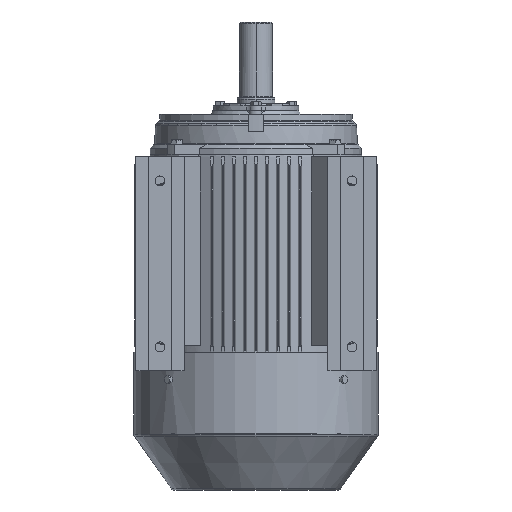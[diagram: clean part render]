
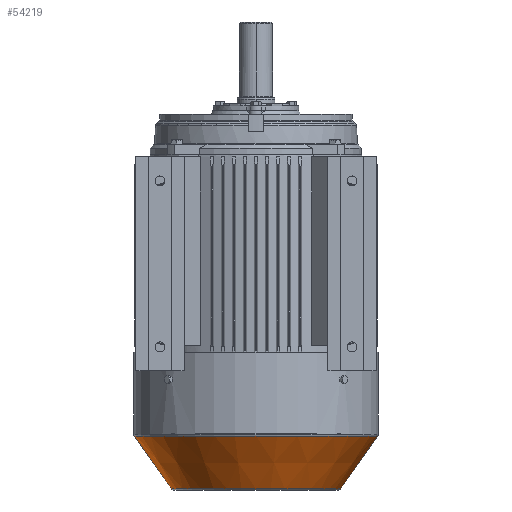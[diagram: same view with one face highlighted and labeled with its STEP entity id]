
A CAD part, front view. The second image highlights one B-rep face of the part: STEP entity #54219.
In plain terms, the highlighted conical face has half-angle 35 degrees and reference radius 176.596 mm.
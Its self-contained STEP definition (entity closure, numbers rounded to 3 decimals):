
#715 = CARTESIAN_POINT ( 'NONE',  ( -75.212, 0., 0. ) ) ;
#716 = DIRECTION ( 'NONE',  ( 1., 0., 0. ) ) ;
#717 = DIRECTION ( 'NONE',  ( 0., 0., -1. ) ) ;
#718 = CARTESIAN_POINT ( 'NONE',  ( 1.5, 0., 0. ) ) ;
#719 = DIRECTION ( 'NONE',  ( 1., 0., 0. ) ) ;
#720 = DIRECTION ( 'NONE',  ( 0., 0., -1. ) ) ;
#11695 = ORIENTED_EDGE ( 'NONE', *, *, #41160, .F. ) ;
#11696 = ORIENTED_EDGE ( 'NONE', *, *, #40366, .F. ) ;
#11697 = ORIENTED_EDGE ( 'NONE', *, *, #41159, .T. ) ;
#11698 = ORIENTED_EDGE ( 'NONE', *, *, #40365, .T. ) ;
#18971 = CARTESIAN_POINT ( 'NONE',  ( 1.5, 0., -122.881 ) ) ;
#19019 = CARTESIAN_POINT ( 'NONE',  ( -75.212, 0., 176.596 ) ) ;
#19020 = CARTESIAN_POINT ( 'NONE',  ( -75.212, 0., -176.596 ) ) ;
#19044 = CARTESIAN_POINT ( 'NONE',  ( 1.5, 0., 122.881 ) ) ;
#20803 = EDGE_LOOP ( 'NONE', ( #11695, #11696, #11697, #11698 ) ) ;
#21805 = FACE_OUTER_BOUND ( 'NONE', #20803, .T. ) ;
#21816 = CONICAL_SURFACE ( 'NONE', #34294, 176.596, 0.611 ) ;
#26167 = VERTEX_POINT ( 'NONE', #18971 ) ;
#26263 = VERTEX_POINT ( 'NONE', #19019 ) ;
#26265 = VERTEX_POINT ( 'NONE', #19020 ) ;
#26313 = VERTEX_POINT ( 'NONE', #19044 ) ;
#30918 = AXIS2_PLACEMENT_3D ( 'NONE', #715, #716, #717 ) ;
#30919 = AXIS2_PLACEMENT_3D ( 'NONE', #718, #719, #720 ) ;
#34294 = AXIS2_PLACEMENT_3D ( 'NONE', #60582, #60579, #60558 ) ;
#40365 = EDGE_CURVE ( 'NONE', #26263, #26265, #82850, .T. ) ;
#40366 = EDGE_CURVE ( 'NONE', #26313, #26167, #82852, .T. ) ;
#41159 = EDGE_CURVE ( 'NONE', #26313, #26263, #44292, .T. ) ;
#41160 = EDGE_CURVE ( 'NONE', #26167, #26265, #44298, .T. ) ;
#44292 = LINE ( 'NONE', #68892, #44299 ) ;
#44298 = LINE ( 'NONE', #68896, #44301 ) ;
#44299 = VECTOR ( 'NONE', #68888, 1000. ) ;
#44301 = VECTOR ( 'NONE', #68897, 1000. ) ;
#54219 = ADVANCED_FACE ( 'NONE', ( #21805 ), #21816, .T. ) ;
#60558 = DIRECTION ( 'NONE',  ( 0., 0., 1. ) ) ;
#60579 = DIRECTION ( 'NONE',  ( -1., 0., 0. ) ) ;
#60582 = CARTESIAN_POINT ( 'NONE',  ( -75.212, 0., 0. ) ) ;
#68888 = DIRECTION ( 'NONE',  ( -0.819, 0., 0.574 ) ) ;
#68892 = CARTESIAN_POINT ( 'NONE',  ( -75.212, 0., 176.596 ) ) ;
#68896 = CARTESIAN_POINT ( 'NONE',  ( -75.212, 0., -176.596 ) ) ;
#68897 = DIRECTION ( 'NONE',  ( -0.819, 0., -0.574 ) ) ;
#82850 = CIRCLE ( 'NONE', #30918, 176.596 ) ;
#82852 = CIRCLE ( 'NONE', #30919, 122.881 ) ;
